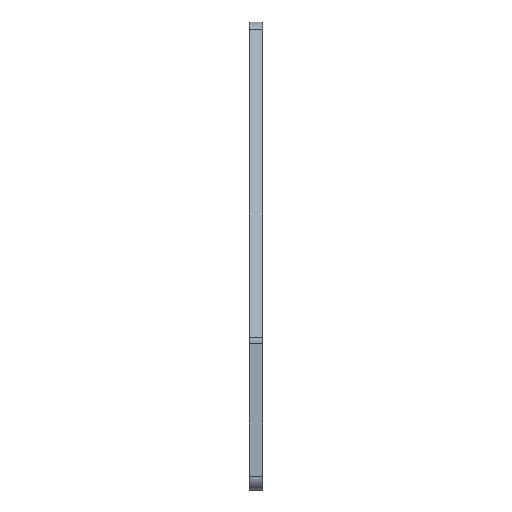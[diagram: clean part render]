
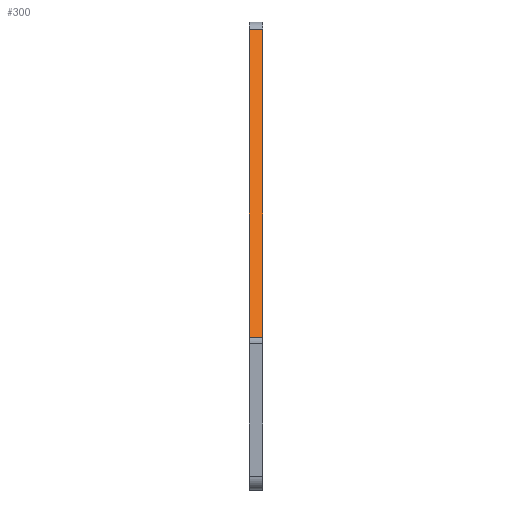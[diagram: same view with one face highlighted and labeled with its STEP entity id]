
A CAD part, left-side view. The second image highlights one B-rep face of the part: STEP entity #300.
In plain terms, the highlighted planar face has unit normal (-0.894, 0, 0.447).
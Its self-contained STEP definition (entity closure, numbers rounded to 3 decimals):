
#3 = ORIENTED_EDGE ( 'NONE', *, *, #123, .F. ) ;
#69 = CARTESIAN_POINT ( 'NONE',  ( -57.736, 0., 15.056 ) ) ;
#100 = VECTOR ( 'NONE', #914, 1000. ) ;
#108 = CARTESIAN_POINT ( 'NONE',  ( -29.455, 2.5, 71.618 ) ) ;
#123 = EDGE_CURVE ( 'NONE', #637, #594, #747, .T. ) ;
#145 = VERTEX_POINT ( 'NONE', #998 ) ;
#173 = PLANE ( 'NONE',  #745 ) ;
#221 = ORIENTED_EDGE ( 'NONE', *, *, #278, .T. ) ;
#257 = DIRECTION ( 'NONE',  ( -0.447, 0., -0.894 ) ) ;
#278 = EDGE_CURVE ( 'NONE', #637, #145, #512, .T. ) ;
#300 = ADVANCED_FACE ( 'NONE', ( #786 ), #173, .T. ) ;
#333 = CARTESIAN_POINT ( 'NONE',  ( -28.764, 2.5, 73. ) ) ;
#341 = DIRECTION ( 'NONE',  ( -0.447, 0., -0.894 ) ) ;
#359 = CARTESIAN_POINT ( 'NONE',  ( -28.764, 0., 73. ) ) ;
#375 = DIRECTION ( 'NONE',  ( -0.447, 0., -0.894 ) ) ;
#419 = CARTESIAN_POINT ( 'NONE',  ( -29.455, 0., 71.618 ) ) ;
#445 = CARTESIAN_POINT ( 'NONE',  ( -57.736, 0., 15.056 ) ) ;
#448 = CARTESIAN_POINT ( 'NONE',  ( -29.455, 0., 71.618 ) ) ;
#449 = VECTOR ( 'NONE', #257, 1000. ) ;
#512 = LINE ( 'NONE', #333, #449 ) ;
#566 = LINE ( 'NONE', #69, #964 ) ;
#567 = VERTEX_POINT ( 'NONE', #445 ) ;
#577 = ORIENTED_EDGE ( 'NONE', *, *, #830, .F. ) ;
#583 = EDGE_CURVE ( 'NONE', #594, #567, #988, .T. ) ;
#594 = VERTEX_POINT ( 'NONE', #448 ) ;
#595 = DIRECTION ( 'NONE',  ( 0., 1., 0. ) ) ;
#637 = VERTEX_POINT ( 'NONE', #108 ) ;
#652 = VECTOR ( 'NONE', #375, 1000. ) ;
#745 = AXIS2_PLACEMENT_3D ( 'NONE', #1025, #758, #341 ) ;
#747 = LINE ( 'NONE', #419, #100 ) ;
#750 = ORIENTED_EDGE ( 'NONE', *, *, #583, .F. ) ;
#758 = DIRECTION ( 'NONE',  ( -0.894, 0., 0.447 ) ) ;
#786 = FACE_OUTER_BOUND ( 'NONE', #1091, .T. ) ;
#830 = EDGE_CURVE ( 'NONE', #567, #145, #566, .T. ) ;
#914 = DIRECTION ( 'NONE',  ( 0., -1., 0. ) ) ;
#964 = VECTOR ( 'NONE', #595, 1000. ) ;
#988 = LINE ( 'NONE', #359, #652 ) ;
#998 = CARTESIAN_POINT ( 'NONE',  ( -57.736, 2.5, 15.056 ) ) ;
#1025 = CARTESIAN_POINT ( 'NONE',  ( -28.764, 0., 73. ) ) ;
#1091 = EDGE_LOOP ( 'NONE', ( #221, #577, #750, #3 ) ) ;
